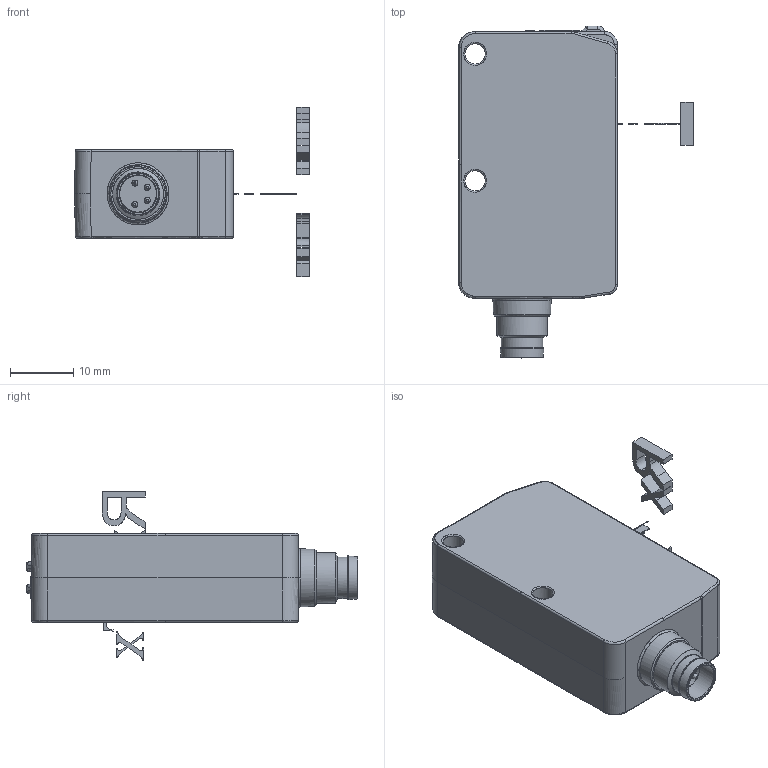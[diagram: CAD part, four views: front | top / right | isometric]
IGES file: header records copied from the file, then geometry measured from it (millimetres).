
Global section: file name: D:\igs\DSD-0143.igs; preprocessor: I-DEAS 3D IGES Translator 11; date: 20070424.145010; units: millimetre
Bounding box: 37 x 52.3 x 26.68 mm (x, y, z)
Volume: 83.7 mm3; surface area: 5549 mm2
Topology: 6 solids, 6 shells, 533 faces, 2670 edges, 2481 vertices
Faces by surface type: bspline 533
